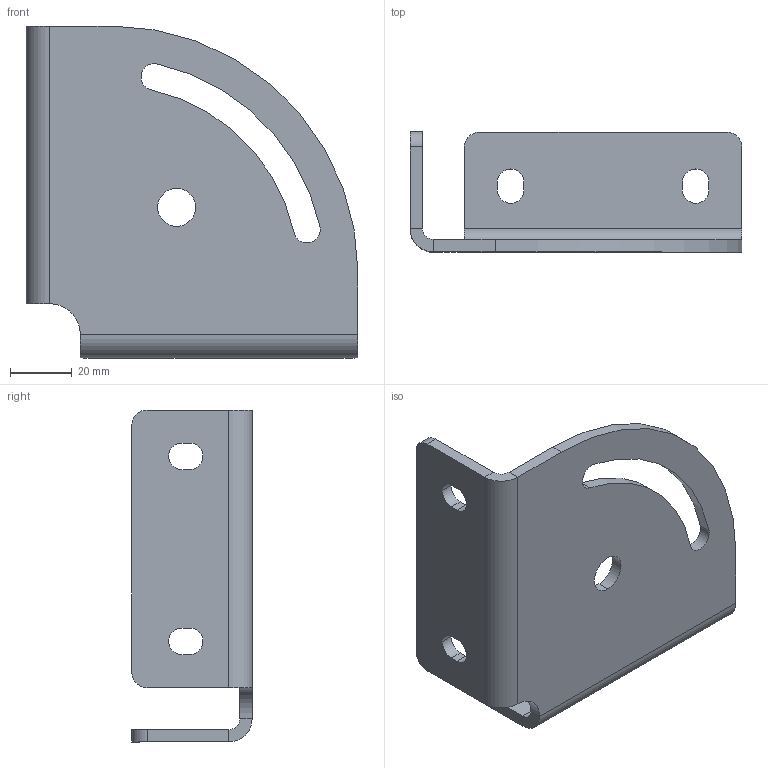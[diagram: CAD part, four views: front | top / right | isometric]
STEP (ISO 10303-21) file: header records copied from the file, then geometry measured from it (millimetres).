
FILE_DESCRIPTION (( 'STEP AP214' ), '1' );
FILE_NAME ('A4045Ì12.STEP', '2015-10-16T10:01:48', ( '' ), ( '' ), 'SwSTEP 2.0', 'SolidWorks 2014', '' );
FILE_SCHEMA (( 'AUTOMOTIVE_DESIGN' ));
Length unit declared in the file: millimetre
Products named in the file (1): A4045ﾌ12
Bounding box: 107.6 x 39 x 107.6 mm (x, y, z)
Volume: 58523.8 mm3; surface area: 32682.5 mm2
Topology: 1 solids, 1 shells, 55 faces, 143 edges, 90 vertices
Faces by surface type: cylinder 29, plane 26
Entity records: 1745 total; most frequent: DIRECTION 313, CARTESIAN_POINT 289, ORIENTED_EDGE 286, EDGE_CURVE 143, AXIS2_PLACEMENT_3D 114, VERTEX_POINT 90, LINE 85, VECTOR 85
